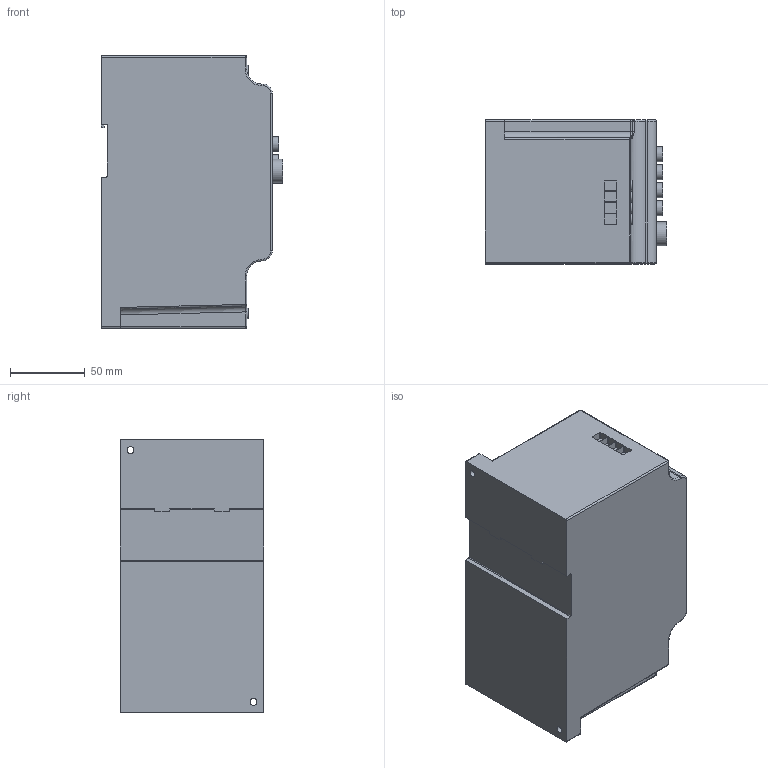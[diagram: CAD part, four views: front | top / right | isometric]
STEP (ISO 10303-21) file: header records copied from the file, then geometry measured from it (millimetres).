
FILE_DESCRIPTION(('STEP AP203'), '1');
FILE_NAME('VCI-G5.5-4B', '', ('UNSPECIFIED'), ('UNSPECIFIED'), 'C3D Converter', 'C3D Toolkit', '');
FILE_SCHEMA(('CONFIG_CONTROL_DESIGN'));
Length unit declared in the file: millimetre
Bounding box: 121 x 96 x 182 mm (x, y, z)
Volume: 1833340.8 mm3; surface area: 100643.4 mm2
Topology: 1 solids, 1 shells, 274 faces, 667 edges, 421 vertices
Faces by surface type: plane 141, cylinder 114, torus 9, bspline 5, sphere 5
Full cylindrical faces by diameter (mm): 4.5 x2, 6 x10, 7 x10, 10 x8, 16 x1, 22 x1
Entity records: 10513 total; most frequent: CARTESIAN_POINT 1821, DIRECTION 1412, ORIENTED_EDGE 1258, EDGE_CURVE 629, AXIS2_PLACEMENT_3D 528, VERTEX_POINT 421, LINE 356, VECTOR 356
